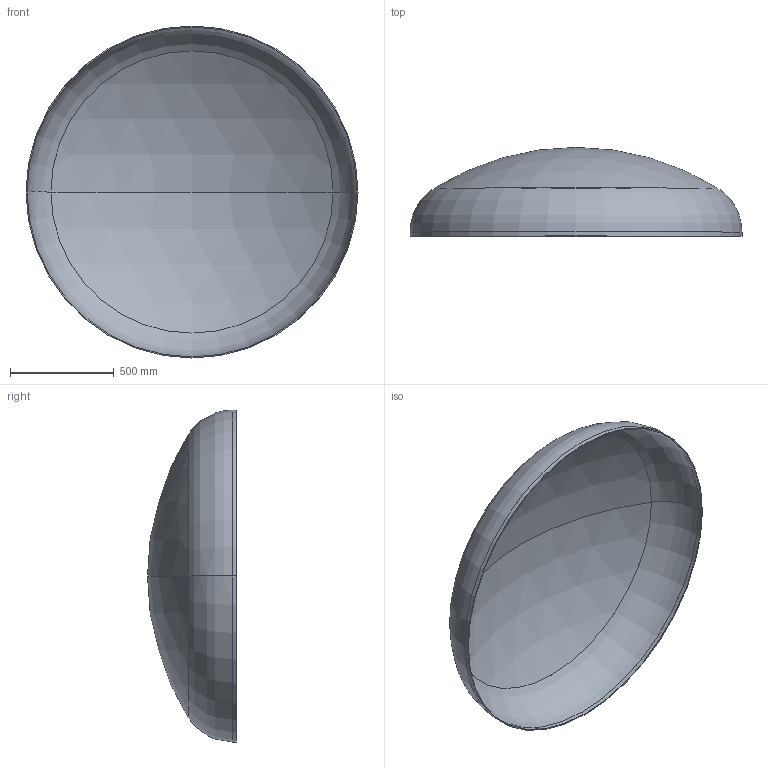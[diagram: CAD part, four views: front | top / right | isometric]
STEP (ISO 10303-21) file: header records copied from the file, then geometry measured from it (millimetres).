
FILE_DESCRIPTION (( 'STEP AP203' ), '1' );
FILE_NAME ('DIN 28013 Korbbogenform_-_Boden DIN 28013 - 1600 x 20 - I - s=5.step', '2016-07-01T11:02:43', ( '' ), ( '' ), 'SwSTEP 2.0', 'SolidWorks 2013', '' );
FILE_SCHEMA (( 'CONFIG_CONTROL_DESIGN' ));
Length unit declared in the file: millimetre
Products named in the file (1): DIN 28013 Korbbogenform_-_Boden DIN 28013 - 1600 x 20 - I - s=5
Bounding box: 1600 x 428.23 x 1600 mm (x, y, z)
Volume: 14352701.6 mm3; surface area: 5766184.9 mm2
Topology: 1 solids, 1 shells, 13 faces, 24 edges, 14 vertices
Faces by surface type: torus 4, cylinder 4, sphere 4, plane 1
Entity records: 407 total; most frequent: DIRECTION 72, CARTESIAN_POINT 52, ORIENTED_EDGE 48, AXIS2_PLACEMENT_3D 34, EDGE_CURVE 24, CIRCLE 20, VERTEX_POINT 14, EDGE_LOOP 14
